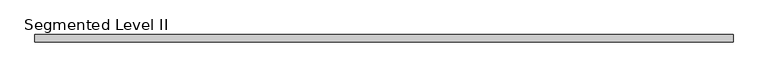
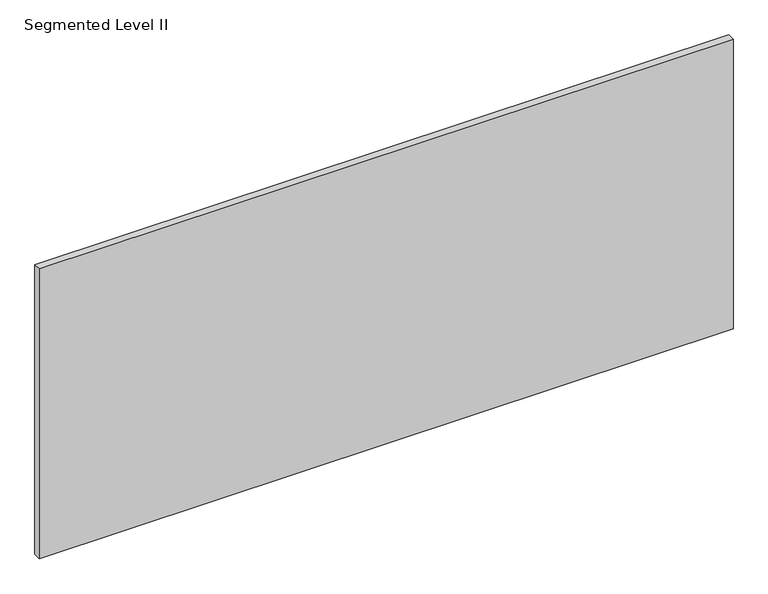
"""IFC4 building model written with IfcOpenShell, lengths in millimetres: proxy geometry, Panel-Fascia-Teknion-Altos-Standard : Segmented Level II."""

from ifc_helpers import new_model, si_unit, frame, origin, place, context, project, spatial, polyline, outline, extrude, source, transform, mapped, element, save


def segmented_level_ii_95ed46a7(model_context):
    return source(origin(), model_context, "Body", "SweptSolid", [
        extrude(outline(polyline([(911.225, -9.525), (-911.225, -9.525), (-911.225, 9.525), (911.225, 9.525), (911.225, -9.525)])), frame((0.0, 0.0, 3.175), z_axis=(0.0, 0.0, 1.0), x_axis=(1.0, 0.0, 0.0)), (0.0, 0.0, 1.0), 804.418),
    ])


if __name__ == "__main__":
    model = new_model("IFC4")
    model_context = context("Model", 3, world=origin())
    ifc_project = project(units=[si_unit("LENGTHUNIT", "METRE", prefix="MILLI")], contexts=[model_context])
    site = spatial("IfcSite", under=ifc_project)
    building = spatial("IfcBuilding", under=site)
    placement = place(None, origin())
    segmented_level_ii_shape = segmented_level_ii_95ed46a7(model_context)
    element("IfcBuildingElementProxy", 1, Name="Panel-Fascia-Teknion-Altos-Standard : Segmented Level II", ObjectType="Panel-Fascia-Teknion-Altos-Standard : Segmented Level II", at=placement, inside=building, context=model_context, shape_type="MappedRepresentation", body=[
        mapped(segmented_level_ii_shape, transform((0.0, 0.0, 0.0), x_axis=(1.0, 0.0, 0.0), y_axis=(0.0, 1.0, 0.0), z_axis=(0.0, 0.0, 1.0))),
    ])
    save(model, "model.ifc")
